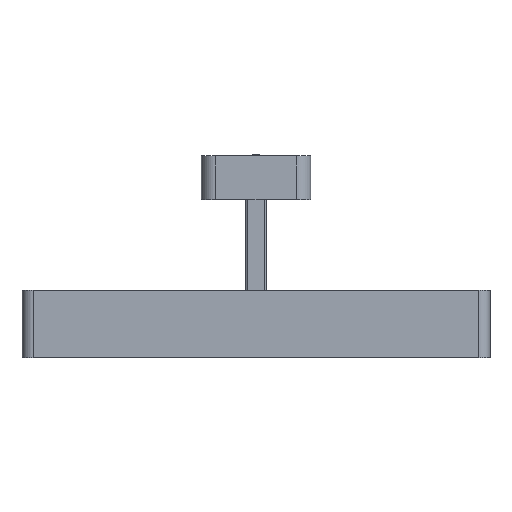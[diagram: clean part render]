
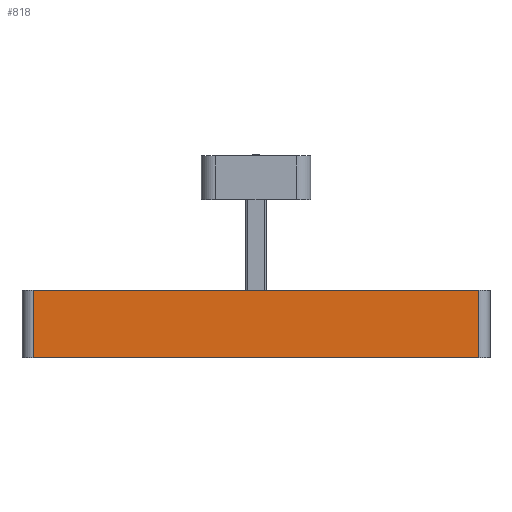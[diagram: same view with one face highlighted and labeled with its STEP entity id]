
A CAD part, front view. The second image highlights one B-rep face of the part: STEP entity #818.
In plain terms, the highlighted planar face has unit normal (0, -1, 0).
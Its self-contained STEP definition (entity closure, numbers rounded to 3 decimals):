
#74 = PLANE('',#75);
#75 = AXIS2_PLACEMENT_3D('',#76,#77,#78);
#76 = CARTESIAN_POINT('',(-0.75,-6.25,6.5));
#77 = DIRECTION('',(0.,0.,1.));
#78 = DIRECTION('',(1.,0.,0.));
#102 = CYLINDRICAL_SURFACE('',#103,1.1);
#103 = AXIS2_PLACEMENT_3D('',#104,#105,#106);
#104 = CARTESIAN_POINT('',(0.35,-5.15,0.));
#105 = DIRECTION('',(0.,0.,1.));
#106 = DIRECTION('',(-1.,-0.,0.));
#130 = PLANE('',#131);
#131 = AXIS2_PLACEMENT_3D('',#132,#133,#134);
#132 = CARTESIAN_POINT('',(-0.75,-6.25,0.));
#133 = DIRECTION('',(0.,0.,1.));
#134 = DIRECTION('',(1.,0.,0.));
#173 = VERTEX_POINT('',#174);
#174 = CARTESIAN_POINT('',(0.35,-6.25,6.5));
#196 = EDGE_CURVE('',#173,#197,#199,.T.);
#197 = VERTEX_POINT('',#198);
#198 = CARTESIAN_POINT('',(43.15,-6.25,6.5));
#199 = SURFACE_CURVE('',#200,(#204,#211),.PCURVE_S1.);
#200 = LINE('',#201,#202);
#201 = CARTESIAN_POINT('',(-0.75,-6.25,6.5));
#202 = VECTOR('',#203,1.);
#203 = DIRECTION('',(1.,0.,0.));
#204 = PCURVE('',#74,#205);
#205 = DEFINITIONAL_REPRESENTATION('',(#206),#210);
#206 = LINE('',#207,#208);
#207 = CARTESIAN_POINT('',(0.,0.));
#208 = VECTOR('',#209,1.);
#209 = DIRECTION('',(1.,0.));
#210 = ( GEOMETRIC_REPRESENTATION_CONTEXT(2) 
PARAMETRIC_REPRESENTATION_CONTEXT() REPRESENTATION_CONTEXT('2D SPACE',''
  ) );
#211 = PCURVE('',#212,#217);
#212 = PLANE('',#213);
#213 = AXIS2_PLACEMENT_3D('',#214,#215,#216);
#214 = CARTESIAN_POINT('',(-0.75,-6.25,0.));
#215 = DIRECTION('',(0.,1.,0.));
#216 = DIRECTION('',(0.,0.,1.));
#217 = DEFINITIONAL_REPRESENTATION('',(#218),#222);
#218 = LINE('',#219,#220);
#219 = CARTESIAN_POINT('',(6.5,0.));
#220 = VECTOR('',#221,1.);
#221 = DIRECTION('',(0.,1.));
#222 = ( GEOMETRIC_REPRESENTATION_CONTEXT(2) 
PARAMETRIC_REPRESENTATION_CONTEXT() REPRESENTATION_CONTEXT('2D SPACE',''
  ) );
#245 = CYLINDRICAL_SURFACE('',#246,1.1);
#246 = AXIS2_PLACEMENT_3D('',#247,#248,#249);
#247 = CARTESIAN_POINT('',(43.15,-5.15,0.));
#248 = DIRECTION('',(0.,0.,1.));
#249 = DIRECTION('',(1.,0.,-0.));
#594 = VERTEX_POINT('',#595);
#595 = CARTESIAN_POINT('',(0.35,-6.25,0.));
#617 = EDGE_CURVE('',#594,#173,#618,.T.);
#618 = SURFACE_CURVE('',#619,(#623,#630),.PCURVE_S1.);
#619 = LINE('',#620,#621);
#620 = CARTESIAN_POINT('',(0.35,-6.25,0.));
#621 = VECTOR('',#622,1.);
#622 = DIRECTION('',(0.,0.,1.));
#623 = PCURVE('',#102,#624);
#624 = DEFINITIONAL_REPRESENTATION('',(#625),#629);
#625 = LINE('',#626,#627);
#626 = CARTESIAN_POINT('',(1.571,0.));
#627 = VECTOR('',#628,1.);
#628 = DIRECTION('',(0.,1.));
#629 = ( GEOMETRIC_REPRESENTATION_CONTEXT(2) 
PARAMETRIC_REPRESENTATION_CONTEXT() REPRESENTATION_CONTEXT('2D SPACE',''
  ) );
#630 = PCURVE('',#212,#631);
#631 = DEFINITIONAL_REPRESENTATION('',(#632),#636);
#632 = LINE('',#633,#634);
#633 = CARTESIAN_POINT('',(0.,1.1));
#634 = VECTOR('',#635,1.);
#635 = DIRECTION('',(1.,0.));
#636 = ( GEOMETRIC_REPRESENTATION_CONTEXT(2) 
PARAMETRIC_REPRESENTATION_CONTEXT() REPRESENTATION_CONTEXT('2D SPACE',''
  ) );
#699 = EDGE_CURVE('',#594,#700,#702,.T.);
#700 = VERTEX_POINT('',#701);
#701 = CARTESIAN_POINT('',(43.15,-6.25,0.));
#702 = SURFACE_CURVE('',#703,(#707,#714),.PCURVE_S1.);
#703 = LINE('',#704,#705);
#704 = CARTESIAN_POINT('',(-0.75,-6.25,0.));
#705 = VECTOR('',#706,1.);
#706 = DIRECTION('',(1.,0.,0.));
#707 = PCURVE('',#130,#708);
#708 = DEFINITIONAL_REPRESENTATION('',(#709),#713);
#709 = LINE('',#710,#711);
#710 = CARTESIAN_POINT('',(0.,0.));
#711 = VECTOR('',#712,1.);
#712 = DIRECTION('',(1.,0.));
#713 = ( GEOMETRIC_REPRESENTATION_CONTEXT(2) 
PARAMETRIC_REPRESENTATION_CONTEXT() REPRESENTATION_CONTEXT('2D SPACE',''
  ) );
#714 = PCURVE('',#212,#715);
#715 = DEFINITIONAL_REPRESENTATION('',(#716),#720);
#716 = LINE('',#717,#718);
#717 = CARTESIAN_POINT('',(0.,0.));
#718 = VECTOR('',#719,1.);
#719 = DIRECTION('',(0.,1.));
#720 = ( GEOMETRIC_REPRESENTATION_CONTEXT(2) 
PARAMETRIC_REPRESENTATION_CONTEXT() REPRESENTATION_CONTEXT('2D SPACE',''
  ) );
#818 = ADVANCED_FACE('',(#819),#212,.F.);
#819 = FACE_BOUND('',#820,.F.);
#820 = EDGE_LOOP('',(#821,#822,#823,#824));
#821 = ORIENTED_EDGE('',*,*,#699,.F.);
#822 = ORIENTED_EDGE('',*,*,#617,.T.);
#823 = ORIENTED_EDGE('',*,*,#196,.T.);
#824 = ORIENTED_EDGE('',*,*,#825,.F.);
#825 = EDGE_CURVE('',#700,#197,#826,.T.);
#826 = SURFACE_CURVE('',#827,(#831,#838),.PCURVE_S1.);
#827 = LINE('',#828,#829);
#828 = CARTESIAN_POINT('',(43.15,-6.25,0.));
#829 = VECTOR('',#830,1.);
#830 = DIRECTION('',(0.,0.,1.));
#831 = PCURVE('',#212,#832);
#832 = DEFINITIONAL_REPRESENTATION('',(#833),#837);
#833 = LINE('',#834,#835);
#834 = CARTESIAN_POINT('',(0.,43.9));
#835 = VECTOR('',#836,1.);
#836 = DIRECTION('',(1.,0.));
#837 = ( GEOMETRIC_REPRESENTATION_CONTEXT(2) 
PARAMETRIC_REPRESENTATION_CONTEXT() REPRESENTATION_CONTEXT('2D SPACE',''
  ) );
#838 = PCURVE('',#245,#839);
#839 = DEFINITIONAL_REPRESENTATION('',(#840),#844);
#840 = LINE('',#841,#842);
#841 = CARTESIAN_POINT('',(-1.571,0.));
#842 = VECTOR('',#843,1.);
#843 = DIRECTION('',(-0.,1.));
#844 = ( GEOMETRIC_REPRESENTATION_CONTEXT(2) 
PARAMETRIC_REPRESENTATION_CONTEXT() REPRESENTATION_CONTEXT('2D SPACE',''
  ) );
